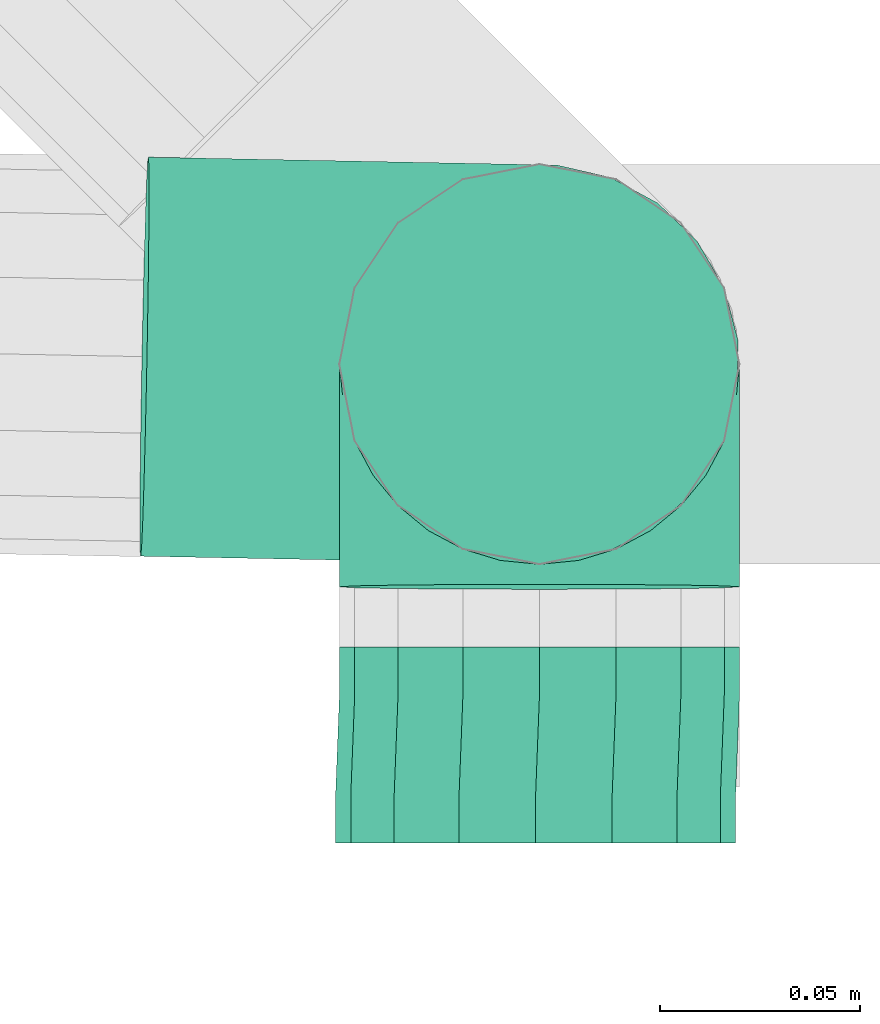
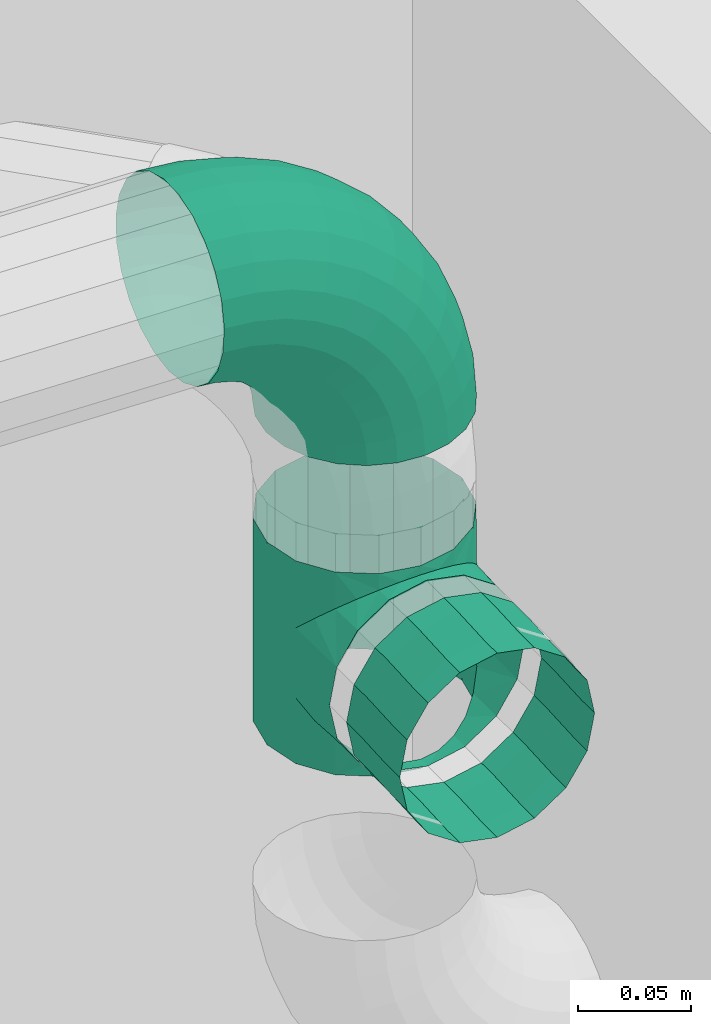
# One storey, part 18 of 22: 3 flow fittings.
"""IFC2X3 building model written with IfcOpenShell, lengths in metres."""

from ifc_helpers import new_model, entity, si_unit, converted_unit, derived_unit, money_unit, direction, frame, origin_with_axes, place, context, subcontext, project, spatial, open_shell, faceted_brep, surface_model, material, type_object, element, save


model = new_model("IFC2X3")

# Units and contexts
model_context = context("Model", 3, precision=1e-05, world=origin_with_axes(), true_north=direction((0.0, 1.0)))
body_context = subcontext(model_context, "Body", "Model", "MODEL_VIEW", scale=1.0)
ifc_project = project(units=[si_unit("LENGTHUNIT", "METRE"), si_unit("AREAUNIT", "SQUARE_METRE"), si_unit("VOLUMEUNIT", "CUBIC_METRE"), si_unit("ABSORBEDDOSEUNIT", "GRAY"), si_unit("AMOUNTOFSUBSTANCEUNIT", "MOLE"), si_unit("DOSEEQUIVALENTUNIT", "SIEVERT"), si_unit("ELECTRICCAPACITANCEUNIT", "FARAD"), si_unit("ELECTRICCHARGEUNIT", "COULOMB"), si_unit("ELECTRICCONDUCTANCEUNIT", "SIEMENS"), si_unit("ELECTRICCURRENTUNIT", "AMPERE"), si_unit("ELECTRICRESISTANCEUNIT", "OHM"), si_unit("ELECTRICVOLTAGEUNIT", "VOLT"), si_unit("ENERGYUNIT", "JOULE"), si_unit("FORCEUNIT", "NEWTON"), si_unit("FREQUENCYUNIT", "HERTZ"), si_unit("ILLUMINANCEUNIT", "LUX"), si_unit("INDUCTANCEUNIT", "HENRY"), si_unit("LUMINOUSFLUXUNIT", "LUMEN"), si_unit("LUMINOUSINTENSITYUNIT", "CANDELA"), si_unit("MAGNETICFLUXDENSITYUNIT", "TESLA"), si_unit("MAGNETICFLUXUNIT", "WEBER"), si_unit("MASSUNIT", "GRAM"), converted_unit("PLANEANGLEUNIT", "degree", entity("IfcReal", 0.0174532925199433), si_unit("PLANEANGLEUNIT", "RADIAN"), dimensions=[0, 0, 0, 0, 0, 0, 0]), si_unit("POWERUNIT", "WATT"), si_unit("PRESSUREUNIT", "PASCAL"), si_unit("RADIOACTIVITYUNIT", "BECQUEREL"), si_unit("SOLIDANGLEUNIT", "STERADIAN"), si_unit("THERMODYNAMICTEMPERATUREUNIT", "KELVIN"), si_unit("TIMEUNIT", "SECOND"), derived_unit("ACCELERATIONUNIT", [(si_unit("LENGTHUNIT", "METRE"), 1), (si_unit("TIMEUNIT", "SECOND"), -2)]), derived_unit("ANGULARVELOCITYUNIT", [(converted_unit("PLANEANGLEUNIT", "degree", entity("IfcReal", 0.0174532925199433), si_unit("PLANEANGLEUNIT", "RADIAN"), dimensions=[0, 0, 0, 0, 0, 0, 0]), 1), (si_unit("TIMEUNIT", "SECOND"), -1)]), derived_unit("CURVATUREUNIT", [(converted_unit("PLANEANGLEUNIT", "degree", entity("IfcReal", 0.0174532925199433), si_unit("PLANEANGLEUNIT", "RADIAN"), dimensions=[0, 0, 0, 0, 0, 0, 0]), 1), (si_unit("LENGTHUNIT", "METRE"), -1)]), derived_unit("DYNAMICVISCOSITYUNIT", [(si_unit("PRESSUREUNIT", "PASCAL"), 1), (si_unit("TIMEUNIT", "SECOND"), 1)]), derived_unit("HEATFLUXDENSITYUNIT", [(si_unit("POWERUNIT", "WATT"), 1), (si_unit("LENGTHUNIT", "METRE"), -2)]), derived_unit("HEATINGVALUEUNIT", [(si_unit("ENERGYUNIT", "JOULE"), 1), (si_unit("MASSUNIT", "GRAM"), -1)]), derived_unit("INTEGERCOUNTRATEUNIT", [(si_unit("TIMEUNIT", "SECOND"), -1)]), derived_unit("IONCONCENTRATIONUNIT", [(si_unit("MASSUNIT", "GRAM"), 1), (si_unit("VOLUMEUNIT", "CUBIC_METRE"), -1)]), derived_unit("ISOTHERMALMOISTURECAPACITYUNIT", [(si_unit("VOLUMEUNIT", "CUBIC_METRE"), 1), (si_unit("MASSUNIT", "GRAM"), -1)]), derived_unit("KINEMATICVISCOSITYUNIT", [(si_unit("AREAUNIT", "SQUARE_METRE"), 1), (si_unit("TIMEUNIT", "SECOND"), -1)]), derived_unit("LINEARFORCEUNIT", [(si_unit("FORCEUNIT", "NEWTON"), 1), (si_unit("LENGTHUNIT", "METRE"), -1)]), derived_unit("LINEARMOMENTUNIT", [(si_unit("FORCEUNIT", "NEWTON"), 1), (si_unit("LENGTHUNIT", "METRE"), -1)]), derived_unit("LINEARSTIFFNESSUNIT", [(si_unit("FORCEUNIT", "NEWTON"), 1), (si_unit("LENGTHUNIT", "METRE"), -1)]), derived_unit("LINEARVELOCITYUNIT", [(si_unit("LENGTHUNIT", "METRE"), 1), (si_unit("TIMEUNIT", "SECOND"), -1)]), derived_unit("LUMINOUSINTENSITYDISTRIBUTIONUNIT", [(si_unit("LUMINOUSINTENSITYUNIT", "CANDELA"), 1), (si_unit("LUMINOUSFLUXUNIT", "LUMEN"), -1)]), derived_unit("MASSDENSITYUNIT", [(si_unit("MASSUNIT", "GRAM"), 1), (si_unit("VOLUMEUNIT", "CUBIC_METRE"), -1)]), derived_unit("MASSFLOWRATEUNIT", [(si_unit("MASSUNIT", "GRAM"), 1), (si_unit("TIMEUNIT", "SECOND"), -1)]), derived_unit("MASSPERLENGTHUNIT", [(si_unit("MASSUNIT", "GRAM"), 1), (si_unit("LENGTHUNIT", "METRE"), -1)]), derived_unit("MODULUSOFELASTICITYUNIT", [(si_unit("FORCEUNIT", "NEWTON"), 1), (si_unit("AREAUNIT", "SQUARE_METRE"), -1)]), derived_unit("MODULUSOFLINEARSUBGRADEREACTIONUNIT", [(si_unit("FORCEUNIT", "NEWTON"), 1), (si_unit("LENGTHUNIT", "METRE"), -2)]), derived_unit("MODULUSOFROTATIONALSUBGRADEREACTIONUNIT", [(si_unit("FORCEUNIT", "NEWTON"), 1), (si_unit("LENGTHUNIT", "METRE"), 1)]), derived_unit("MODULUSOFSUBGRADEREACTIONUNIT", [(si_unit("FORCEUNIT", "NEWTON"), 1), (si_unit("VOLUMEUNIT", "CUBIC_METRE"), -1)]), derived_unit("MOISTUREDIFFUSIVITYUNIT", [(si_unit("VOLUMEUNIT", "CUBIC_METRE"), 1), (si_unit("TIMEUNIT", "SECOND"), -1)]), derived_unit("MOLECULARWEIGHTUNIT", [(si_unit("MASSUNIT", "GRAM"), 1), (si_unit("AMOUNTOFSUBSTANCEUNIT", "MOLE"), -1)]), derived_unit("PLANARFORCEUNIT", [(si_unit("FORCEUNIT", "NEWTON"), 1), (si_unit("LENGTHUNIT", "METRE"), -2)]), derived_unit("ROTATIONALFREQUENCYUNIT", [(si_unit("TIMEUNIT", "SECOND"), -1)]), derived_unit("ROTATIONALMASSUNIT", [(si_unit("MASSUNIT", "GRAM"), 1), (si_unit("LENGTHUNIT", "METRE"), 2)]), derived_unit("ROTATIONALSTIFFNESSUNIT", [(si_unit("FORCEUNIT", "NEWTON"), 1), (si_unit("LENGTHUNIT", "METRE"), 1), (converted_unit("PLANEANGLEUNIT", "degree", entity("IfcReal", 0.0174532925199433), si_unit("PLANEANGLEUNIT", "RADIAN"), dimensions=[0, 0, 0, 0, 0, 0, 0]), -1)]), derived_unit("SECTIONAREAINTEGRALUNIT", [(si_unit("LENGTHUNIT", "METRE"), 5)]), derived_unit("SECTIONMODULUSUNIT", [(si_unit("LENGTHUNIT", "METRE"), 3)]), derived_unit("SHEARMODULUSUNIT", [(si_unit("FORCEUNIT", "NEWTON"), 1), (si_unit("AREAUNIT", "SQUARE_METRE"), -1)]), derived_unit("SOUNDPOWERUNIT", [(si_unit("ENERGYUNIT", "JOULE"), 1), (si_unit("TIMEUNIT", "SECOND"), -1)]), derived_unit("SPECIFICHEATCAPACITYUNIT", [(si_unit("FORCEUNIT", "NEWTON"), 1), (si_unit("MASSUNIT", "GRAM"), -1), (si_unit("THERMODYNAMICTEMPERATUREUNIT", "KELVIN"), -1)]), derived_unit("TEMPERATUREGRADIENTUNIT", [(si_unit("THERMODYNAMICTEMPERATUREUNIT", "KELVIN"), 1), (si_unit("LENGTHUNIT", "METRE"), -1)]), derived_unit("THERMALADMITTANCEUNIT", [(si_unit("POWERUNIT", "WATT"), 1), (si_unit("AREAUNIT", "SQUARE_METRE"), -1), (si_unit("THERMODYNAMICTEMPERATUREUNIT", "KELVIN"), -1)]), derived_unit("THERMALCONDUCTANCEUNIT", [(si_unit("POWERUNIT", "WATT"), 1), (si_unit("LENGTHUNIT", "METRE"), -1), (si_unit("THERMODYNAMICTEMPERATUREUNIT", "KELVIN"), -1)]), derived_unit("THERMALEXPANSIONCOEFFICIENTUNIT", [(si_unit("THERMODYNAMICTEMPERATUREUNIT", "KELVIN"), -1)]), derived_unit("THERMALRESISTANCEUNIT", [(si_unit("AREAUNIT", "SQUARE_METRE"), 1), (si_unit("POWERUNIT", "WATT"), -1)]), derived_unit("THERMALTRANSMITTANCEUNIT", [(si_unit("POWERUNIT", "WATT"), 1), (si_unit("AREAUNIT", "SQUARE_METRE"), -1), (si_unit("THERMODYNAMICTEMPERATUREUNIT", "KELVIN"), -1)]), derived_unit("TORQUEUNIT", [(si_unit("FORCEUNIT", "NEWTON"), 1), (si_unit("LENGTHUNIT", "METRE"), 1)]), derived_unit("VAPORPERMEABILITYUNIT", [(si_unit("MASSUNIT", "GRAM"), 1), (si_unit("TIMEUNIT", "SECOND"), -1)]), derived_unit("VOLUMETRICFLOWRATEUNIT", [(si_unit("VOLUMEUNIT", "CUBIC_METRE"), 1), (si_unit("TIMEUNIT", "SECOND"), -1)]), derived_unit("WARPINGCONSTANTUNIT", [(si_unit("LENGTHUNIT", "METRE"), 6)]), derived_unit("WARPINGMOMENTUNIT", [(si_unit("FORCEUNIT", "NEWTON"), 1), (si_unit("LENGTHUNIT", "METRE"), 2)]), money_unit("GBP")], contexts=[model_context])

# Site, building, storey, space
site_placement = place(None, origin_with_axes())
site = spatial("IfcSite", under=ifc_project, at=site_placement, Name="Site", CompositionType="ELEMENT")
building_placement = place(site_placement, origin_with_axes())
building = spatial("IfcBuilding", under=site, at=building_placement, Name="Building01", CompositionType="ELEMENT")
storey_placement = place(building_placement, frame((0.0, 0.0, 2.6), z_axis=(0.0, 0.0, 1.0), x_axis=(1.0, 0.0, 0.0)))
storey = spatial("IfcBuildingStorey", under=building, at=storey_placement, Name="MF", CompositionType="ELEMENT", Elevation=2.6)
space_placement = place(storey_placement, frame((15.816265, 6.196984, 0.0), z_axis=(0.0, 0.0, 1.0), x_axis=(1.0, 0.0, 0.0)))
space = spatial("IfcSpace", under=storey, at=space_placement, Name="WC", CompositionType="ELEMENT", InteriorOrExteriorSpace="NOTDEFINED")

# Flow fittings
ifc_material = material(Name="M_BSUK_ColdWater")
pipe_fitting_type_1 = type_object("IfcPipeFittingType", Name="M-BmpElbow-DefaultElbow", PredefinedType="BEND")
placement = place(building_placement, origin_with_axes())
flow_fitting_1_placement = place(placement, frame((17.308214, 8.518817, 4.808176), z_axis=(0.0124967, -0.00024114, 0.99992188), x_axis=(0.99973578, -0.01929124, -0.01249902)))
element("IfcFlowFitting", 1, at=flow_fitting_1_placement, inside=space, type_object=pipe_fitting_type_1, material=ifc_material, Name="M-BmpElbow-DefaultElbow", ObjectType="M-BmpElbow-DefaultElbow", context=body_context, shape_type="SurfaceModel", body=[
    surface_model("IfcShellBasedSurfaceModel", [(0.008048, -0.01349, -0.048774), (0.0, -0.01349, -0.048146), (0.0, 0.0, -0.05), (0.00776, 0.0, -0.050606), (0.0159, -0.01349, -0.050644), (0.015332, 0.0, -0.052409), (0.023368, -0.01349, -0.05371), (0.022532, 0.0, -0.055365), (0.030269, -0.01349, -0.057897), (0.029187, 0.0, -0.059403), (0.036437, -0.01349, -0.063105), (0.035134, 0.0, -0.064424), (0.041721, -0.01349, -0.069207), (0.040229, 0.0, -0.070308), (0.045995, -0.01349, -0.076055), (0.04435, 0.0, -0.076912), (0.049154, -0.01349, -0.083484), (0.047396, 0.0, -0.084074), (0.051121, -0.01349, -0.091313), (0.049293, 0.0, -0.091623), (0.05185, -0.01349, -0.099352), (0.049996, 0.0, -0.099375), (0.00889, -0.025979, -0.043415), (0.0, -0.025979, -0.042721), (0.017564, -0.025979, -0.04548), (0.025813, -0.025979, -0.048867), (0.033436, -0.025979, -0.053493), (0.040248, -0.025979, -0.059245), (0.046086, -0.025979, -0.065986), (0.050807, -0.025979, -0.07355), (0.054296, -0.025979, -0.081756), (0.056469, -0.025979, -0.090404), (0.057275, -0.025979, -0.099284), (0.010223, -0.036542, -0.034926), (0.0, -0.036542, -0.034128), (0.020199, -0.036542, -0.037301), (0.029685, -0.036542, -0.041196), (0.038452, -0.036542, -0.046515), (0.046287, -0.036542, -0.053131), (0.053, -0.036542, -0.060883), (0.058429, -0.036542, -0.069582), (0.062442, -0.036542, -0.079019), (0.064941, -0.036542, -0.088964), (0.065867, -0.036542, -0.099177), (0.01195, -0.044394, -0.023936), (0.0, -0.044394, -0.023003), (0.02361, -0.044394, -0.026712), (0.034698, -0.044394, -0.031265), (0.044946, -0.044394, -0.037483), (0.054104, -0.044394, -0.045216), (0.061951, -0.044394, -0.054277), (0.068296, -0.044394, -0.064445), (0.072987, -0.044394, -0.075476), (0.075908, -0.044394, -0.0871), (0.076991, -0.044394, -0.099038), (0.013941, -0.048954, -0.011261), (0.0, -0.048954, -0.010173), (0.027544, -0.048954, -0.0145), (0.04048, -0.048954, -0.019811), (0.052435, -0.048954, -0.027065), (0.063119, -0.048954, -0.036087), (0.072274, -0.048954, -0.046657), (0.079677, -0.048954, -0.058521), (0.085149, -0.048954, -0.071389), (0.088558, -0.048954, -0.084951), (0.08982, -0.048954, -0.098877), (0.01605, -0.049883, 0.002159), (0.0, -0.049883, 0.003412), (0.03171, -0.049883, -0.00157), (0.046602, -0.049883, -0.007684), (0.060365, -0.049883, -0.016035), (0.072665, -0.049883, -0.026421), (0.083204, -0.049883, -0.03859), (0.091727, -0.049883, -0.052247), (0.098026, -0.049883, -0.067062), (0.101951, -0.049883, -0.082675), (0.103404, -0.049883, -0.098707), (0.018119, -0.047113, 0.015329), (0.0, -0.047113, 0.016744), (0.035798, -0.047113, 0.01112), (0.05261, -0.047113, 0.004218), (0.068147, -0.047113, -0.00521), (0.082033, -0.047113, -0.016935), (0.093931, -0.047113, -0.030673), (0.103552, -0.047113, -0.046091), (0.110664, -0.047113, -0.062816), (0.115094, -0.047113, -0.080441), (0.116735, -0.047113, -0.098541), (0.019995, -0.040848, 0.027273), (0.0, -0.040848, 0.028834), (0.039505, -0.040848, 0.022628), (0.058059, -0.040848, 0.01501), (0.075205, -0.040848, 0.004606), (0.090528, -0.040848, -0.008333), (0.103658, -0.040848, -0.023494), (0.114276, -0.040848, -0.040508), (0.122124, -0.040848, -0.058965), (0.127013, -0.040848, -0.078416), (0.128824, -0.040848, -0.09839), (0.021539, -0.031554, 0.037104), (0.0, -0.031554, 0.038786), (0.042557, -0.031554, 0.0321), (0.062543, -0.031554, 0.023894), (0.081014, -0.031554, 0.012686), (0.097521, -0.031554, -0.001252), (0.111665, -0.031554, -0.017584), (0.123103, -0.031554, -0.035913), (0.131557, -0.031554, -0.055795), (0.136824, -0.031554, -0.076749), (0.138775, -0.031554, -0.098265), (0.022638, -0.01992, 0.044093), (0.0, -0.01992, 0.045861), (0.044726, -0.01992, 0.038834), (0.065732, -0.01992, 0.03021), (0.085144, -0.01992, 0.018431), (0.102492, -0.01992, 0.003782), (0.117357, -0.01992, -0.013383), (0.129378, -0.01992, -0.032646), (0.138264, -0.01992, -0.053542), (0.143799, -0.01992, -0.075563), (0.145849, -0.01992, -0.098177), (0.023208, -0.006808, 0.047722), (0.0, -0.006808, 0.049534), (0.045853, -0.006808, 0.042331), (0.067387, -0.006808, 0.03349), (0.087288, -0.006808, 0.021414), (0.105074, -0.006808, 0.006395), (0.120313, -0.006808, -0.011201), (0.132637, -0.006808, -0.03095), (0.141746, -0.006808, -0.052372), (0.147421, -0.006808, -0.074948), (0.149523, -0.006808, -0.098131), (0.023208, 0.006808, 0.047722), (0.0, 0.006808, 0.049534), (0.045853, 0.006808, 0.042331), (0.067387, 0.006808, 0.03349), (0.087288, 0.006808, 0.021414), (0.105074, 0.006808, 0.006395), (0.120313, 0.006808, -0.011201), (0.132637, 0.006808, -0.03095), (0.141746, 0.006808, -0.052372), (0.147421, 0.006808, -0.074948), (0.149523, 0.006808, -0.098131), (0.022638, 0.01992, 0.044093), (0.0, 0.01992, 0.045861), (0.044726, 0.01992, 0.038834), (0.065732, 0.01992, 0.03021), (0.085144, 0.01992, 0.018431), (0.102492, 0.01992, 0.003782), (0.117357, 0.01992, -0.013383), (0.129378, 0.01992, -0.032646), (0.138264, 0.01992, -0.053542), (0.143799, 0.01992, -0.075563), (0.145849, 0.01992, -0.098177), (0.021539, 0.031554, 0.037104), (0.0, 0.031554, 0.038786), (0.042557, 0.031554, 0.0321), (0.062543, 0.031554, 0.023894), (0.081014, 0.031554, 0.012686), (0.097521, 0.031554, -0.001252), (0.111665, 0.031554, -0.017584), (0.123103, 0.031554, -0.035913), (0.131557, 0.031554, -0.055795), (0.136824, 0.031554, -0.076749), (0.138775, 0.031554, -0.098265), (0.019995, 0.040848, 0.027273), (0.0, 0.040848, 0.028834), (0.039505, 0.040848, 0.022628), (0.058059, 0.040848, 0.01501), (0.075205, 0.040848, 0.004606), (0.090528, 0.040848, -0.008333), (0.103658, 0.040848, -0.023494), (0.114276, 0.040848, -0.040508), (0.122124, 0.040848, -0.058965), (0.127013, 0.040848, -0.078416), (0.128824, 0.040848, -0.09839), (0.018119, 0.047113, 0.015329), (0.0, 0.047113, 0.016744), (0.035798, 0.047113, 0.01112), (0.05261, 0.047113, 0.004218), (0.068147, 0.047113, -0.00521), (0.082033, 0.047113, -0.016935), (0.093931, 0.047113, -0.030673), (0.103552, 0.047113, -0.046091), (0.110664, 0.047113, -0.062816), (0.115094, 0.047113, -0.080441), (0.116735, 0.047113, -0.098541), (0.01605, 0.049883, 0.002159), (0.0, 0.049883, 0.003412), (0.03171, 0.049883, -0.00157), (0.046602, 0.049883, -0.007684), (0.060365, 0.049883, -0.016035), (0.072665, 0.049883, -0.026421), (0.083204, 0.049883, -0.03859), (0.091727, 0.049883, -0.052247), (0.098026, 0.049883, -0.067062), (0.101951, 0.049883, -0.082675), (0.103404, 0.049883, -0.098707), (0.013941, 0.048954, -0.011261), (0.0, 0.048954, -0.010173), (0.027544, 0.048954, -0.0145), (0.04048, 0.048954, -0.019811), (0.052435, 0.048954, -0.027065), (0.063119, 0.048954, -0.036087), (0.072274, 0.048954, -0.046657), (0.079677, 0.048954, -0.058521), (0.085149, 0.048954, -0.071389), (0.088558, 0.048954, -0.084951), (0.08982, 0.048954, -0.098877), (0.01195, 0.044394, -0.023936), (0.0, 0.044394, -0.023003), (0.02361, 0.044394, -0.026712), (0.034698, 0.044394, -0.031265), (0.044946, 0.044394, -0.037483), (0.054104, 0.044394, -0.045216), (0.061951, 0.044394, -0.054277), (0.068296, 0.044394, -0.064445), (0.072987, 0.044394, -0.075476), (0.075908, 0.044394, -0.0871), (0.076991, 0.044394, -0.099038), (0.010223, 0.036542, -0.034926), (0.0, 0.036542, -0.034128), (0.020199, 0.036542, -0.037301), (0.029685, 0.036542, -0.041196), (0.038452, 0.036542, -0.046515), (0.046287, 0.036542, -0.053131), (0.053, 0.036542, -0.060883), (0.058429, 0.036542, -0.069582), (0.062442, 0.036542, -0.079019), (0.064941, 0.036542, -0.088964), (0.065867, 0.036542, -0.099177), (0.00889, 0.025979, -0.043415), (0.0, 0.025979, -0.042721), (0.017564, 0.025979, -0.04548), (0.025813, 0.025979, -0.048867), (0.033436, 0.025979, -0.053493), (0.040248, 0.025979, -0.059245), (0.046086, 0.025979, -0.065986), (0.050807, 0.025979, -0.07355), (0.054296, 0.025979, -0.081756), (0.056469, 0.025979, -0.090404), (0.057275, 0.025979, -0.099284), (0.008048, 0.01349, -0.048774), (0.0, 0.01349, -0.048146), (0.0159, 0.01349, -0.050644), (0.023368, 0.01349, -0.05371), (0.030269, 0.01349, -0.057897), (0.036437, 0.01349, -0.063105), (0.041721, 0.01349, -0.069207), (0.045995, 0.01349, -0.076055), (0.049154, 0.01349, -0.083484), (0.051121, 0.01349, -0.091313), (0.05185, 0.01349, -0.099352)], [open_shell([[[0, 1, 2, 3]], [[4, 0, 3, 5]], [[6, 4, 5, 7]], [[8, 6, 7, 9]], [[10, 8, 9, 11]], [[12, 10, 11, 13]], [[14, 12, 13, 15]], [[16, 14, 15, 17]], [[18, 16, 17, 19]], [[20, 18, 19, 21]], [[22, 23, 1, 0]], [[24, 22, 0, 4]], [[25, 24, 4, 6]], [[26, 25, 6, 8]], [[27, 26, 8, 10]], [[28, 27, 10, 12]], [[29, 28, 12, 14]], [[30, 29, 14, 16]], [[31, 30, 16, 18]], [[32, 31, 18, 20]], [[33, 34, 23, 22]], [[35, 33, 22, 24]], [[36, 35, 24, 25]], [[37, 36, 25, 26]], [[38, 37, 26, 27]], [[39, 38, 27, 28]], [[40, 39, 28, 29]], [[41, 40, 29, 30]], [[42, 41, 30, 31]], [[43, 42, 31, 32]], [[44, 45, 34, 33]], [[46, 44, 33, 35]], [[47, 46, 35, 36]], [[48, 47, 36, 37]], [[49, 48, 37, 38]], [[50, 49, 38, 39]], [[51, 50, 39, 40]], [[52, 51, 40, 41]], [[53, 52, 41, 42]], [[54, 53, 42, 43]], [[55, 56, 45, 44]], [[57, 55, 44, 46]], [[58, 57, 46, 47]], [[59, 58, 47, 48]], [[60, 59, 48, 49]], [[61, 60, 49, 50]], [[62, 61, 50, 51]], [[63, 62, 51, 52]], [[64, 63, 52, 53]], [[65, 64, 53, 54]], [[66, 67, 56, 55]], [[68, 66, 55, 57]], [[69, 68, 57, 58]], [[70, 69, 58, 59]], [[71, 70, 59, 60]], [[72, 71, 60, 61]], [[73, 72, 61, 62]], [[74, 73, 62, 63]], [[75, 74, 63, 64]], [[76, 75, 64, 65]], [[77, 78, 67, 66]], [[79, 77, 66, 68]], [[80, 79, 68, 69]], [[81, 80, 69, 70]], [[82, 81, 70, 71]], [[83, 82, 71, 72]], [[84, 83, 72, 73]], [[85, 84, 73, 74]], [[86, 85, 74, 75]], [[87, 86, 75, 76]], [[88, 89, 78, 77]], [[90, 88, 77, 79]], [[91, 90, 79, 80]], [[92, 91, 80, 81]], [[93, 92, 81, 82]], [[94, 93, 82, 83]], [[95, 94, 83, 84]], [[96, 95, 84, 85]], [[97, 96, 85, 86]], [[98, 97, 86, 87]], [[99, 100, 89, 88]], [[101, 99, 88, 90]], [[102, 101, 90, 91]], [[103, 102, 91, 92]], [[104, 103, 92, 93]], [[105, 104, 93, 94]], [[106, 105, 94, 95]], [[107, 106, 95, 96]], [[108, 107, 96, 97]], [[109, 108, 97, 98]], [[110, 111, 100, 99]], [[112, 110, 99, 101]], [[113, 112, 101, 102]], [[114, 113, 102, 103]], [[115, 114, 103, 104]], [[116, 115, 104, 105]], [[117, 116, 105, 106]], [[118, 117, 106, 107]], [[119, 118, 107, 108]], [[120, 119, 108, 109]], [[121, 122, 111, 110]], [[123, 121, 110, 112]], [[124, 123, 112, 113]], [[125, 124, 113, 114]], [[126, 125, 114, 115]], [[127, 126, 115, 116]], [[128, 127, 116, 117]], [[129, 128, 117, 118]], [[130, 129, 118, 119]], [[131, 130, 119, 120]], [[132, 133, 122, 121]], [[134, 132, 121, 123]], [[135, 134, 123, 124]], [[136, 135, 124, 125]], [[137, 136, 125, 126]], [[138, 137, 126, 127]], [[139, 138, 127, 128]], [[140, 139, 128, 129]], [[141, 140, 129, 130]], [[142, 141, 130, 131]], [[143, 144, 133, 132]], [[145, 143, 132, 134]], [[146, 145, 134, 135]], [[147, 146, 135, 136]], [[148, 147, 136, 137]], [[149, 148, 137, 138]], [[150, 149, 138, 139]], [[151, 150, 139, 140]], [[152, 151, 140, 141]], [[153, 152, 141, 142]], [[154, 155, 144, 143]], [[156, 154, 143, 145]], [[157, 156, 145, 146]], [[158, 157, 146, 147]], [[159, 158, 147, 148]], [[160, 159, 148, 149]], [[161, 160, 149, 150]], [[162, 161, 150, 151]], [[163, 162, 151, 152]], [[164, 163, 152, 153]], [[165, 166, 155, 154]], [[167, 165, 154, 156]], [[168, 167, 156, 157]], [[169, 168, 157, 158]], [[170, 169, 158, 159]], [[171, 170, 159, 160]], [[172, 171, 160, 161]], [[173, 172, 161, 162]], [[174, 173, 162, 163]], [[175, 174, 163, 164]], [[176, 177, 166, 165]], [[178, 176, 165, 167]], [[179, 178, 167, 168]], [[180, 179, 168, 169]], [[181, 180, 169, 170]], [[182, 181, 170, 171]], [[183, 182, 171, 172]], [[184, 183, 172, 173]], [[185, 184, 173, 174]], [[186, 185, 174, 175]], [[187, 188, 177, 176]], [[189, 187, 176, 178]], [[190, 189, 178, 179]], [[191, 190, 179, 180]], [[192, 191, 180, 181]], [[193, 192, 181, 182]], [[194, 193, 182, 183]], [[195, 194, 183, 184]], [[196, 195, 184, 185]], [[197, 196, 185, 186]], [[198, 199, 188, 187]], [[200, 198, 187, 189]], [[201, 200, 189, 190]], [[202, 201, 190, 191]], [[203, 202, 191, 192]], [[204, 203, 192, 193]], [[205, 204, 193, 194]], [[206, 205, 194, 195]], [[207, 206, 195, 196]], [[208, 207, 196, 197]], [[209, 210, 199, 198]], [[211, 209, 198, 200]], [[212, 211, 200, 201]], [[213, 212, 201, 202]], [[214, 213, 202, 203]], [[215, 214, 203, 204]], [[216, 215, 204, 205]], [[217, 216, 205, 206]], [[218, 217, 206, 207]], [[219, 218, 207, 208]], [[220, 221, 210, 209]], [[222, 220, 209, 211]], [[223, 222, 211, 212]], [[224, 223, 212, 213]], [[225, 224, 213, 214]], [[226, 225, 214, 215]], [[227, 226, 215, 216]], [[228, 227, 216, 217]], [[229, 228, 217, 218]], [[230, 229, 218, 219]], [[231, 232, 221, 220]], [[233, 231, 220, 222]], [[234, 233, 222, 223]], [[235, 234, 223, 224]], [[236, 235, 224, 225]], [[237, 236, 225, 226]], [[238, 237, 226, 227]], [[239, 238, 227, 228]], [[240, 239, 228, 229]], [[241, 240, 229, 230]], [[242, 243, 232, 231]], [[244, 242, 231, 233]], [[245, 244, 233, 234]], [[246, 245, 234, 235]], [[247, 246, 235, 236]], [[248, 247, 236, 237]], [[249, 248, 237, 238]], [[250, 249, 238, 239]], [[251, 250, 239, 240]], [[252, 251, 240, 241]], [[3, 2, 243, 242]], [[5, 3, 242, 244]], [[7, 5, 244, 245]], [[9, 7, 245, 246]], [[11, 9, 246, 247]], [[13, 11, 247, 248]], [[15, 13, 248, 249]], [[17, 15, 249, 250]], [[19, 17, 250, 251]], [[21, 19, 251, 252]]])]),
])
pipe_fitting_type_2 = type_object("IfcPipeFittingType", Name="M-BmpTee-DefaultTee", PredefinedType="JUNCTION")
flow_fitting_2_placement = place(placement, frame((17.406946, 8.516912, 4.544254), z_axis=(0.0, 1.0, 0.0), x_axis=(0.0, 0.0, 1.0)))
element("IfcFlowFitting", 2, at=flow_fitting_2_placement, inside=space, type_object=pipe_fitting_type_2, material=ifc_material, Name="M-BmpTee-DefaultTee", ObjectType="M-BmpTee-DefaultTee", context=body_context, shape_type="SurfaceModel", body=[
    surface_model("IfcShellBasedSurfaceModel", [(0.068757, 0.046194, -0.019134), (0.06921, 0.046194, -0.055386), (0.050077, 0.05, -0.055626), (0.085182, 0.035355, -0.035355), (0.08543, 0.035355, -0.055184), (0.096157, 0.019134, -0.046194), (0.096268, 0.019134, -0.055048), (0.099038, 0.009755, -0.049039), (0.100011, 0.0, -0.05), (0.100073, 0.0, -0.055001), (0.099038, -0.009755, -0.049039), (0.096157, -0.019134, -0.046194), (0.096268, -0.019134, -0.055048), (0.091478, -0.027779, -0.041573), (0.085182, -0.035355, -0.035355), (0.08543, -0.035355, -0.055184), (0.07751, -0.041573, -0.027779), (0.068757, -0.046194, -0.019134), (0.06921, -0.046194, -0.055386), (0.059259, -0.049039, -0.009755), (0.049382, -0.05, 0.0), (0.050077, -0.05, -0.055626), (0.030485, -0.046194, -0.019134), (0.030945, -0.046194, -0.055865), (0.014466, -0.035355, -0.035355), (0.014725, -0.035355, -0.056067), (0.003762, -0.019134, -0.046194), (0.003887, -0.019134, -0.056203), (0.000952, -0.009755, -0.049039), (3e-06, 0.0, -0.05), (8.1e-05, 0.0, -0.056251), (0.000952, 0.009755, -0.049039), (0.003762, 0.019134, -0.046194), (0.003887, 0.019134, -0.056203), (0.008325, 0.027779, -0.041573), (0.014466, 0.035355, -0.035355), (0.014725, 0.035355, -0.056067), (0.021948, 0.041573, -0.027779), (0.030485, 0.046194, -0.019134), (0.030945, 0.046194, -0.055865), (0.039749, 0.049039, -0.009755), (0.049382, 0.05, 0.0), (0.008325, -0.027779, -0.041573), (0.021948, -0.041573, -0.027779), (0.039749, -0.049039, -0.009755), (0.091478, 0.027779, -0.041573), (0.07751, 0.041573, -0.027779), (0.059259, 0.049039, -0.009755), (-0.005, -0.05, 0.0), (0.105012, -0.05, 0.0), (0.105012, -0.046194, 0.019134), (-0.005, -0.046194, 0.019134), (0.105012, -0.035355, 0.035355), (-0.005, -0.035355, 0.035355), (0.105012, -0.019134, 0.046194), (-0.005, -0.019134, 0.046194), (0.105012, 0.0, 0.05), (-0.005, 0.0, 0.05), (0.105012, 0.019134, 0.046194), (-0.005, 0.019134, 0.046194), (0.105012, 0.035355, 0.035355), (-0.005, 0.035355, 0.035355), (0.105012, 0.046194, 0.019134), (-0.005, 0.046194, 0.019134), (0.105012, 0.05, 0.0), (-0.005, 0.05, 0.0), (0.105012, -0.046194, -0.019134), (0.105012, -0.035355, -0.035355), (0.105012, -0.019134, -0.046194), (0.105012, 0.0, -0.05), (0.105012, 0.019134, -0.046194), (0.105012, 0.035355, -0.035355), (0.105012, 0.046194, -0.019134), (-0.005, 0.046194, -0.019134), (-0.005, 0.035355, -0.035355), (-0.005, 0.019134, -0.046194), (-0.005, 0.0, -0.05), (-0.005, -0.019134, -0.046194), (-0.005, -0.035355, -0.035355), (-0.005, -0.046194, -0.019134)], [open_shell([[[0, 1, 2]], [[3, 4, 1]], [[5, 6, 4]], [[7, 8, 9]], [[10, 11, 12]], [[13, 14, 15]], [[16, 17, 18]], [[19, 20, 21]], [[22, 23, 21]], [[24, 25, 23]], [[26, 27, 25]], [[28, 29, 30]], [[31, 32, 33]], [[34, 35, 36]], [[37, 38, 39]], [[40, 41, 2]], [[38, 40, 2]], [[2, 39, 38]], [[35, 37, 39]], [[39, 36, 35]], [[32, 34, 36]], [[36, 33, 32]], [[31, 33, 30]], [[30, 29, 31]], [[27, 26, 28]], [[30, 27, 28]], [[25, 24, 42]], [[25, 42, 26]], [[23, 22, 43]], [[23, 43, 24]], [[21, 20, 44]], [[21, 44, 22]], [[17, 19, 21]], [[21, 18, 17]], [[14, 16, 18]], [[18, 15, 14]], [[11, 13, 15]], [[15, 12, 11]], [[10, 12, 9]], [[9, 8, 10]], [[6, 5, 7]], [[9, 6, 7]], [[4, 3, 45]], [[4, 45, 5]], [[1, 0, 46]], [[1, 46, 3]], [[2, 41, 47]], [[2, 47, 0]], [[48, 20, 49, 50, 51]], [[51, 50, 52, 53]], [[53, 52, 54, 55]], [[55, 54, 56, 57]], [[57, 56, 58, 59]], [[59, 58, 60, 61]], [[61, 60, 62, 63]], [[63, 62, 64, 41, 65]], [[17, 66, 49]], [[14, 67, 66]], [[11, 68, 67]], [[10, 8, 69]], [[7, 5, 70]], [[45, 3, 71]], [[46, 0, 72]], [[47, 41, 64]], [[38, 73, 65]], [[35, 74, 73]], [[32, 75, 74]], [[31, 29, 76]], [[28, 26, 77]], [[42, 24, 78]], [[43, 22, 79]], [[44, 20, 48]], [[22, 44, 48]], [[48, 79, 22]], [[24, 43, 79]], [[79, 78, 24]], [[26, 42, 78]], [[78, 77, 26]], [[28, 77, 76]], [[76, 29, 28]], [[75, 32, 31]], [[76, 75, 31]], [[74, 35, 34]], [[74, 34, 32]], [[73, 38, 37]], [[73, 37, 35]], [[65, 41, 40]], [[65, 40, 38]], [[0, 47, 64]], [[64, 72, 0]], [[3, 46, 72]], [[72, 71, 3]], [[5, 45, 71]], [[71, 70, 5]], [[7, 70, 69]], [[69, 8, 7]], [[68, 11, 10]], [[69, 68, 10]], [[67, 14, 13]], [[67, 13, 11]], [[66, 17, 16]], [[66, 16, 14]], [[49, 20, 19]], [[49, 19, 17]]])]),
])
pipe_fitting_type_3 = type_object("IfcPipeFittingType", Name="M-BmpTransition-DefaultTransition", PredefinedType="TRANSITION")
flow_fitting_3_placement = place(placement, frame((17.406946, 8.434286, 4.594332), z_axis=(0.0, 0.0, 1.0), x_axis=(0.0, -1.0, 0.0)))
element("IfcFlowFitting", 3, at=flow_fitting_3_placement, inside=space, type_object=pipe_fitting_type_3, material=ifc_material, Name="M-BmpTransition-DefaultTransition", ObjectType="M-BmpTransition-DefaultTransition", context=body_context, shape_type="Brep", body=[
    faceted_brep([(0.037, -0.000965, -0.05), (0.025, -0.000965, -0.05), (0.025, 0.002729, -0.049265), (0.025, 0.01817, -0.046194), (0.037, 0.01817, -0.046194), (0.025, 0.018695, -0.045843), (0.025, 0.032334, -0.036729), (0.025, 0.034391, -0.035355), (0.037, 0.034391, -0.035355), (0.025, 0.03854, -0.029146), (0.025, 0.045229, -0.019134), (0.037, 0.045229, -0.019134), (0.025, 0.046061, -0.014955), (0.025, 0.049035, 0.0), (0.037, 0.049035, 0.0), (0.025, 0.045844, 0.016045), (0.025, 0.045229, 0.019134), (0.037, 0.045229, 0.019134), (0.025, 0.037879, 0.030135), (0.025, 0.034391, 0.035355), (0.037, 0.034391, 0.035355), (0.025, 0.026035, 0.040939), (0.025, 0.01817, 0.046194), (0.037, 0.01817, 0.046194), (0.025, 0.011415, 0.047538), (0.025, -0.000965, 0.05), (0.037, -0.000965, 0.05), (0.025, -0.004621, 0.049273), (0.025, -0.020099, 0.046194), (0.037, -0.020099, 0.046194), (0.025, -0.020594, 0.045863), (0.025, -0.034233, 0.03675), (0.025, -0.03632, 0.035355), (0.037, -0.03632, 0.035355), (0.025, -0.040531, 0.029053), (0.025, -0.047159, 0.019134), (0.037, -0.047159, 0.019134), (0.025, -0.048012, 0.014845), (0.025, -0.050965, 0.0), (0.037, -0.050965, 0.0), (0.025, -0.047766, -0.016083), (0.025, -0.047159, -0.019134), (0.037, -0.047159, -0.019134), (0.025, -0.039787, -0.030167), (0.025, -0.03632, -0.035355), (0.037, -0.03632, -0.035355), (0.025, -0.027932, -0.04096), (0.025, -0.020099, -0.046194), (0.037, -0.020099, -0.046194), (0.025, -0.013307, -0.047545), (0.0, 0.05, 0.0), (0.0, 0.046808, 0.016045), (0.0, 0.046194, 0.019134), (0.0, 0.038844, 0.030135), (0.0, 0.035355, 0.035355), (0.0, 0.026999, 0.040939), (0.0, 0.019134, 0.046194), (0.0, 0.01238, 0.047538), (0.0, 0.0, 0.05), (0.0, -0.019134, 0.046194), (0.0, -0.019629, 0.045863), (0.0, -0.033268, 0.03675), (0.0, -0.035355, 0.035355), (0.0, -0.039567, 0.029053), (0.0, -0.046194, 0.019134), (0.0, -0.047047, 0.014845), (0.0, -0.05, 0.0), (0.0, -0.046801, -0.016083), (0.0, -0.046194, -0.019134), (0.0, -0.038822, -0.030167), (0.0, -0.035355, -0.035355), (0.0, -0.026967, -0.04096), (0.0, -0.019134, -0.046194), (0.0, -0.012342, -0.047545), (0.0, 0.0, -0.05), (0.0, 0.003694, -0.049265), (0.0, 0.019134, -0.046194), (0.0, 0.01966, -0.045843), (0.0, 0.033299, -0.036729), (0.0, 0.035355, -0.035355), (0.0, 0.039504, -0.029146), (0.0, 0.046194, -0.019134), (0.0, 0.047025, -0.014955), (0.0, -0.003657, 0.049273), (-0.012, 0.0, -0.05), (-0.012, -0.019134, -0.046194), (-0.012, -0.035355, -0.035355), (-0.012, -0.046194, -0.019134), (-0.012, -0.05, 0.0), (-0.012, -0.046194, 0.019134), (-0.012, -0.035355, 0.035355), (-0.012, -0.019134, 0.046194), (-0.012, 0.0, 0.05), (-0.012, 0.019134, 0.046194), (-0.012, 0.035355, 0.035355), (-0.012, 0.046194, 0.019134), (-0.012, 0.05, 0.0), (-0.012, 0.046194, -0.019134), (-0.012, 0.035355, -0.035355), (-0.012, 0.019134, -0.046194)], [[[0, 1, 2, 3, 4]], [[4, 3, 5, 6, 7, 8]], [[8, 7, 9, 10, 11]], [[11, 10, 12, 13, 14]], [[14, 13, 15, 16, 17]], [[17, 16, 18, 19, 20]], [[20, 19, 21, 22, 23]], [[23, 22, 24, 25, 26]], [[26, 25, 27, 28, 29]], [[29, 28, 30, 31, 32, 33]], [[33, 32, 34, 35, 36]], [[36, 35, 37, 38, 39]], [[39, 38, 40, 41, 42]], [[42, 41, 43, 44, 45]], [[45, 44, 46, 47, 48]], [[48, 47, 49, 1, 0]], [[13, 50, 51, 15]], [[16, 15, 51, 52]], [[19, 18, 53, 54]], [[22, 21, 55, 56]], [[25, 24, 57, 58]], [[59, 60, 30, 28]], [[30, 60, 61, 31]], [[62, 63, 34, 32]], [[64, 65, 37, 35]], [[37, 65, 66, 38]], [[38, 66, 67, 40]], [[68, 69, 43, 41]], [[70, 71, 46, 44]], [[72, 73, 49, 47]], [[74, 75, 2, 1]], [[3, 2, 75, 76]], [[5, 77, 78, 6]], [[7, 6, 78, 79]], [[10, 9, 80, 81]], [[12, 82, 50, 13]], [[81, 82, 12, 10]], [[79, 80, 9, 7]], [[76, 77, 5, 3]], [[1, 49, 73, 74]], [[47, 46, 71, 72]], [[44, 43, 69, 70]], [[41, 40, 67, 68]], [[35, 34, 63, 64]], [[32, 31, 61, 62]], [[28, 27, 83, 59]], [[58, 83, 27, 25]], [[56, 57, 24, 22]], [[54, 55, 21, 19]], [[52, 53, 18, 16]], [[84, 74, 73, 72, 85]], [[85, 72, 71, 70, 86]], [[86, 70, 69, 68, 87]], [[87, 68, 67, 66, 88]], [[88, 66, 65, 64, 89]], [[89, 64, 63, 62, 90]], [[90, 62, 61, 60, 59, 91]], [[91, 59, 83, 58, 92]], [[92, 58, 57, 56, 93]], [[93, 56, 55, 54, 94]], [[94, 54, 53, 52, 95]], [[95, 52, 51, 50, 96]], [[96, 50, 82, 81, 97]], [[97, 81, 80, 79, 98]], [[98, 79, 78, 77, 76, 99]], [[99, 76, 75, 74, 84]]]),
])

save(model, "model.ifc")
